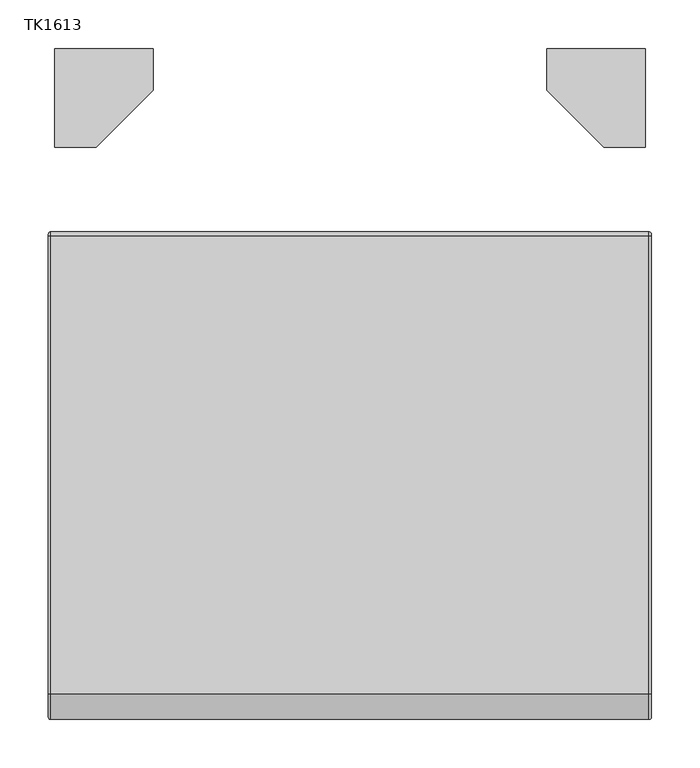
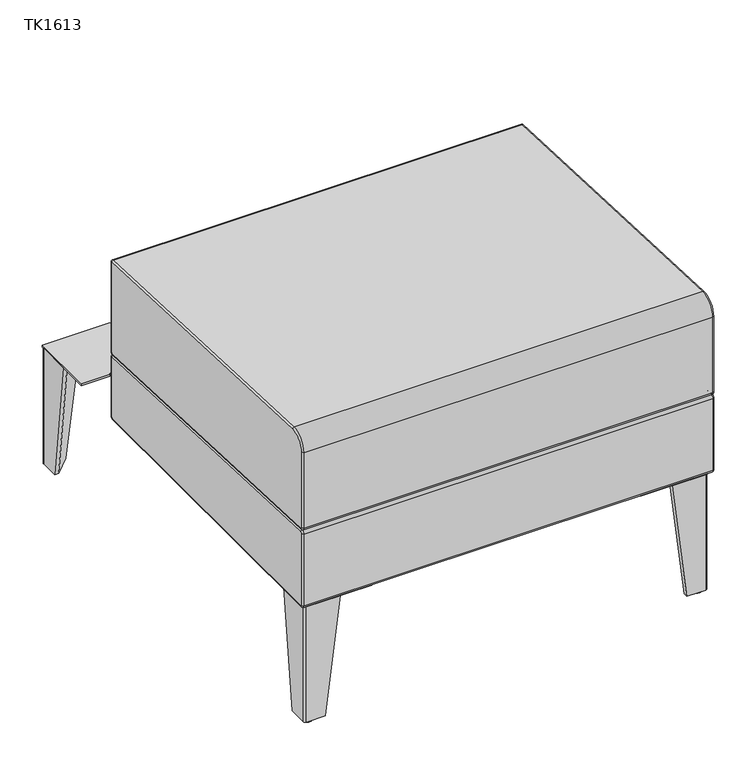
"""IFC4 building model written with IfcOpenShell, lengths in millimetres: furniture geometry, JSI-Teekan-Single_Seat_Lounge : TK1613."""

from ifc_helpers import new_model, si_unit, point, frame, origin, place, context, project, spatial, polyline, circle_curve, ellipse_curve, trimmed, outline, extrude, source, transform, mapped, element, save
from ifc_brep_helpers import plane_surface, cylinder_surface, revolved_surface, spline_surface, advanced_brep


def tk1613_dd0fc4a0(model_context):
    return source(origin(), model_context, "Body", "SolidModel", [
        advanced_brep(
        [(294.8013333, -340.133006, 3.1926572), (294.8013333, -325.6863843, 3.1926572), (294.8013333, -325.6863843, 4.9994321), (294.8013333, -340.133006, 4.9994321), (294.8013333, -336.9403488, 0.0), (294.8013333, -328.8790415, 0.0), (294.8013333, -332.9096951, 0.0), (294.8013333, -332.9096951, 4.9994321)],
        [
            (0, 1, circle_curve(frame((294.8013333, -332.9096951, 3.1926572), z_axis=(0.0, 0.0, 1.0), x_axis=(0.0, 1.0, 0.0)), 7.2233108)),
            (1, 2),
            (2, 3, circle_curve(frame((294.8013333, -332.9096951, 4.9994321), z_axis=(0.0, 0.0, -1.0), x_axis=(0.0, 1.0, 0.0)), 7.2233108)),
            (3, 0),
            (1, 0, circle_curve(frame((294.8013333, -332.9096951, 3.1926572), z_axis=(0.0, 0.0, 1.0), x_axis=(0.0, 1.0, 0.0)), 7.2233108)),
            (3, 2, circle_curve(frame((294.8013333, -332.9096951, 4.9994321), z_axis=(0.0, 0.0, -1.0), x_axis=(0.0, 1.0, 0.0)), 7.2233108)),
            (4, 5, circle_curve(frame((294.8013333, -332.9096951, 0.0), z_axis=(0.0, 0.0, 1.0), x_axis=(0.0, 1.0, 0.0)), 4.0306536)),
            (5, 1, circle_curve(frame((294.8013333, -328.8790415, 3.1926572), z_axis=(1.0, 0.0, 0.0), x_axis=(0.0, 1.0, 0.0)), 3.1926572)),
            (0, 4, circle_curve(frame((294.8013333, -336.9403488, 3.1926572), z_axis=(1.0, 0.0, 0.0), x_axis=(0.0, -1.0, 0.0)), 3.1926572)),
            (5, 4, circle_curve(frame((294.8013333, -332.9096951, 0.0), z_axis=(0.0, 0.0, 1.0), x_axis=(0.0, 1.0, 0.0)), 4.0306536)),
            (6, 5),
            (4, 6),
            (2, 7),
            (7, 3),
        ],
        [
            cylinder_surface(frame((294.8013333, -332.9096951, 14.2077797), z_axis=(0.0, 0.0, -1.0), x_axis=(0.0, 1.0, 0.0)), 7.2233108),
            revolved_surface(trimmed(ellipse_curve(frame((294.8013333, -328.8790415, 3.1926572), z_axis=(-1.0, 0.0, 0.0), x_axis=(0.0, 1.0, 0.0)), 3.1926572, 3.1926572), [point((294.8013333, -325.6863843, 3.1926572))], [point((294.8013333, -328.8790415, 0.0))], True, "CARTESIAN"), (294.8013333, -332.9096951, 14.2077797), (0.0, 0.0, -1.0)),
            plane_surface(frame((294.8013333, -332.9096951, 0.0), z_axis=(0.0, 0.0, -1.0), x_axis=(0.0, 1.0, 0.0))),
            plane_surface(frame((294.8013333, -332.9096951, 4.9994321), z_axis=(0.0, 0.0, 1.0), x_axis=(0.0, 1.0, 0.0))),
        ],
        [
            (0, [[1, 2, 3, 4]]),
            (0, [[5, -4, 6, -2]]),
            (1, [[7, 8, -1, 9]]),
            (1, [[10, -9, -5, -8]]),
            (2, [[11, -7, 12]]),
            (2, [[-12, -10, -11]]),
            (3, [[-3, 13, 14]]),
            (3, [[-6, -14, -13]]),
        ],
    ),
        advanced_brep(
        [(250.825, -336.5496631, 189.4817329), (250.825, -342.9, 189.4817329), (301.625, -342.9, 189.4817329), (304.8, -339.725, 189.4817329), (304.8, -288.9246631, 189.4817329), (298.45, -288.9246631, 189.4817329), (273.05, -336.5496631, 4.9994321), (298.45, -311.1496631, 4.9994321), (304.8, -311.1496631, 4.9994321), (304.8, -339.6969923, 4.9994321), (301.5969923, -342.9, 4.9994321), (273.05, -342.9, 4.9994321)],
        [
            (0, 1),
            (1, 2),
            (2, 3, circle_curve(frame((301.625, -339.725, 189.4817329), z_axis=(0.0, 0.0, 1.0), x_axis=(-1.0, 0.0, 0.0)), 3.175)),
            (3, 4),
            (4, 5),
            (5, 0),
            (6, 7),
            (7, 8),
            (8, 9),
            (9, 10, circle_curve(frame((301.5969923, -339.6969923, 4.9994321), z_axis=(0.0, 0.0, -1.0), x_axis=(-1.0, 0.0, 0.0)), 3.2030077)),
            (10, 11),
            (11, 6),
            (11, 1),
            (0, 6),
            (10, 2),
            (9, 3),
            (8, 4),
            (7, 5),
        ],
        [
            plane_surface(frame((285.2208333, -323.3206649, 189.4817329), z_axis=(0.0, 0.0, 1.0), x_axis=(-1.0, 0.0, 0.0))),
            plane_surface(frame((292.6244987, -330.7243303, 4.9994321), z_axis=(0.0, 0.0, -1.0), x_axis=(-1.0, 0.0, 0.0))),
            plane_surface(frame((273.05, -339.7248316, 4.9994321), z_axis=(-0.9928212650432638, 0.0, -0.11960742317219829), x_axis=(0.0, -1.0, 0.0))),
            plane_surface(frame((287.3234961, -342.9, 4.9994321), z_axis=(0.0, -1.0, 0.0), x_axis=(1.0, 0.0, 0.0))),
            spline_surface(2, 1, [[(301.5969923, -342.9, 4.9994321), (301.625, -342.9, 189.4817329)], [(304.8, -342.9, 4.9994321), (304.79999999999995, -342.9, 189.4817329)], [(304.8, -339.6969923, 4.9994321), (304.8, -339.725, 189.4817329)]], [3, 3], [2, 2], [0.0, 1.0], [0.0, 1.0], weights=[[1.0, 1.0], [0.7071067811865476, 0.7071067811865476], [1.0, 1.0]]),
            plane_surface(frame((304.8, -325.4233277, 4.9994321), z_axis=(1.0, 0.0, 0.0), x_axis=(0.0, 1.0, 0.0))),
            plane_surface(frame((301.625, -311.1496631, 4.9994321), z_axis=(0.0, 0.992821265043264, -0.11960742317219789), x_axis=(-1.0, 0.0, 0.0))),
            plane_surface(frame((285.75, -323.8496631, 4.9994321), z_axis=(-0.7045550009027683, 0.7045550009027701, -0.08487933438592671), x_axis=(-0.7071067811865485, -0.7071067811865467, 0.0))),
        ],
        [
            (0, [[1, 2, 3, 4, 5, 6]]),
            (1, [[7, 8, 9, 10, 11, 12]]),
            (2, [[-12, 13, -1, 14]]),
            (3, [[-11, 15, -2, -13]]),
            (4, [[-10, 16, -3, -15]]),
            (5, [[-9, 17, -4, -16]]),
            (6, [[-8, 18, -5, -17]]),
            (7, [[-7, -14, -6, -18]]),
        ],
    ),
        extrude(outline(polyline([(203.2, -342.9), (203.2, -300.0375), (261.9375, -241.3), (304.8, -241.3), (304.8, -342.9), (203.2, -342.9)])), frame((0.0, 0.0, 189.4817329), z_axis=(0.0, 0.0, 1.0), x_axis=(1.0, 0.0, 0.0)), (0.0, 0.0, 1.0), 3.175),
        advanced_brep(
        [(-294.8013333, -340.133006, 3.1926572), (-294.8013333, -340.133006, 4.9994321), (-294.8013333, -325.6863843, 4.9994321), (-294.8013333, -325.6863843, 3.1926572), (-294.8013333, -336.9403488, 0.0), (-294.8013333, -328.8790415, 0.0), (-294.8013333, -332.9096951, 0.0), (-294.8013333, -332.9096951, 4.9994321)],
        [
            (0, 1),
            (1, 2, circle_curve(frame((-294.8013333, -332.9096951, 4.9994321), z_axis=(0.0, 0.0, -1.0), x_axis=(0.0, 1.0, 0.0)), 7.2233108)),
            (2, 3),
            (3, 0, circle_curve(frame((-294.8013333, -332.9096951, 3.1926572), z_axis=(0.0, 0.0, 1.0), x_axis=(0.0, 1.0, 0.0)), 7.2233108)),
            (2, 1, circle_curve(frame((-294.8013333, -332.9096951, 4.9994321), z_axis=(0.0, 0.0, -1.0), x_axis=(0.0, 1.0, 0.0)), 7.2233108)),
            (0, 3, circle_curve(frame((-294.8013333, -332.9096951, 3.1926572), z_axis=(0.0, 0.0, 1.0), x_axis=(0.0, 1.0, 0.0)), 7.2233108)),
            (4, 0, circle_curve(frame((-294.8013333, -336.9403488, 3.1926572), z_axis=(-1.0, 0.0, 0.0), x_axis=(0.0, -1.0, 0.0)), 3.1926572)),
            (3, 5, circle_curve(frame((-294.8013333, -328.8790415, 3.1926572), z_axis=(-1.0, 0.0, 0.0), x_axis=(0.0, 1.0, 0.0)), 3.1926572)),
            (5, 4, circle_curve(frame((-294.8013333, -332.9096951, 0.0), z_axis=(0.0, 0.0, 1.0), x_axis=(0.0, 1.0, 0.0)), 4.0306536)),
            (4, 5, circle_curve(frame((-294.8013333, -332.9096951, 0.0), z_axis=(0.0, 0.0, 1.0), x_axis=(0.0, 1.0, 0.0)), 4.0306536)),
            (6, 4),
            (5, 6),
            (1, 7),
            (7, 2),
        ],
        [
            cylinder_surface(frame((-294.8013333, -332.9096951, 14.2077797), z_axis=(0.0, 0.0, -1.0), x_axis=(0.0, 1.0, 0.0)), 7.2233108),
            revolved_surface(trimmed(ellipse_curve(frame((-294.8013333, -328.8790415, 3.1926572), z_axis=(-1.0, 0.0, 0.0), x_axis=(0.0, 1.0, 0.0)), 3.1926572, 3.1926572), [point((-294.8013333, -325.6863843, 3.1926572))], [point((-294.8013333, -328.8790415, 0.0))], True, "CARTESIAN"), (-294.8013333, -332.9096951, 14.2077797), (0.0, 0.0, -1.0)),
            plane_surface(frame((-294.8013333, -332.9096951, 0.0), z_axis=(0.0, 0.0, -1.0), x_axis=(0.0, 1.0, 0.0))),
            plane_surface(frame((-294.8013333, -332.9096951, 4.9994321), z_axis=(0.0, 0.0, 1.0), x_axis=(0.0, 1.0, 0.0))),
        ],
        [
            (0, [[1, 2, 3, 4]]),
            (0, [[-3, 5, -1, 6]]),
            (1, [[7, -4, 8, 9]]),
            (1, [[-8, -6, -7, 10]]),
            (2, [[11, -9, 12]]),
            (2, [[-12, -10, -11]]),
            (3, [[13, 14, -2]]),
            (3, [[-14, -13, -5]]),
        ],
    ),
        advanced_brep(
        [(-250.825, -336.5496631, 189.4817329), (-298.45, -288.9246631, 189.4817329), (-304.8, -288.9246631, 189.4817329), (-304.8, -339.725, 189.4817329), (-301.625, -342.9, 189.4817329), (-250.825, -342.9, 189.4817329), (-273.05, -336.5496631, 4.9994321), (-273.05, -342.9, 4.9994321), (-301.5969923, -342.9, 4.9994321), (-304.8, -339.6969923, 4.9994321), (-304.8, -311.1496631, 4.9994321), (-298.45, -311.1496631, 4.9994321)],
        [
            (0, 1),
            (1, 2),
            (2, 3),
            (3, 4, circle_curve(frame((-301.625, -339.725, 189.4817329), z_axis=(0.0, 0.0, 1.0), x_axis=(1.0, 0.0, 0.0)), 3.175)),
            (4, 5),
            (5, 0),
            (6, 7),
            (7, 8),
            (8, 9, circle_curve(frame((-301.5969923, -339.6969923, 4.9994321), z_axis=(0.0, 0.0, -1.0), x_axis=(1.0, 0.0, 0.0)), 3.2030077)),
            (9, 10),
            (10, 11),
            (11, 6),
            (6, 0),
            (5, 7),
            (4, 8),
            (3, 9),
            (2, 10),
            (1, 11),
        ],
        [
            plane_surface(frame((-285.2208333, -323.3206649, 189.4817329), z_axis=(0.0, 0.0, 1.0), x_axis=(1.0, 0.0, 0.0))),
            plane_surface(frame((-292.6244987, -330.7243303, 4.9994321), z_axis=(0.0, 0.0, -1.0), x_axis=(1.0, 0.0, 0.0))),
            plane_surface(frame((-273.05, -339.7248316, 4.9994321), z_axis=(0.9928212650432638, 0.0, -0.11960742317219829), x_axis=(0.0, -1.0, 0.0))),
            plane_surface(frame((-287.3234961, -342.9, 4.9994321), z_axis=(0.0, -1.0, 0.0), x_axis=(-1.0, 0.0, 0.0))),
            spline_surface(1, 2, [[(-301.5969923, -342.9, 4.9994321), (-304.8, -342.9, 4.9994321), (-304.8, -339.6969923, 4.9994321)], [(-301.625, -342.9, 189.4817329), (-304.79999999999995, -342.9, 189.4817329), (-304.8, -339.725, 189.4817329)]], [2, 2], [3, 3], [0.0, 1.0], [0.0, 1.0], weights=[[1.0, 0.7071067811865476, 1.0], [1.0, 0.7071067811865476, 1.0]]),
            plane_surface(frame((-304.8, -325.4233277, 4.9994321), z_axis=(-1.0, 0.0, 0.0), x_axis=(0.0, 1.0, 0.0))),
            plane_surface(frame((-301.625, -311.1496631, 4.9994321), z_axis=(0.0, 0.992821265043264, -0.11960742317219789), x_axis=(1.0, 0.0, 0.0))),
            plane_surface(frame((-285.75, -323.8496631, 4.9994321), z_axis=(0.7045550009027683, 0.7045550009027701, -0.08487933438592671), x_axis=(0.7071067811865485, -0.7071067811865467, 0.0))),
        ],
        [
            (0, [[1, 2, 3, 4, 5, 6]]),
            (1, [[7, 8, 9, 10, 11, 12]]),
            (2, [[13, -6, 14, -7]]),
            (3, [[-14, -5, 15, -8]]),
            (4, [[-15, -4, 16, -9]]),
            (5, [[-16, -3, 17, -10]]),
            (6, [[-17, -2, 18, -11]]),
            (7, [[-18, -1, -13, -12]]),
        ],
    ),
        extrude(outline(polyline([(-203.2, -342.9), (-304.8, -342.9), (-304.8, -241.3), (-261.9375, -241.3), (-203.2, -300.0375), (-203.2, -342.9)])), frame((0.0, 0.0, 189.4817329), z_axis=(0.0, 0.0, 1.0), x_axis=(1.0, 0.0, 0.0)), (0.0, 0.0, 1.0), 3.175),
        advanced_brep(
        [(294.8013333, 340.133006, 3.1926572), (294.8013333, 340.133006, 4.9994321), (294.8013333, 325.6863843, 4.9994321), (294.8013333, 325.6863843, 3.1926572), (294.8013333, 336.9403488, 0.0), (294.8013333, 328.8790415, 0.0), (294.8013333, 332.9096951, 0.0), (294.8013333, 332.9096951, 4.9994321)],
        [
            (0, 1),
            (1, 2, circle_curve(frame((294.8013333, 332.9096951, 4.9994321), z_axis=(0.0, 0.0, -1.0), x_axis=(0.0, -1.0, 0.0)), 7.2233108)),
            (2, 3),
            (3, 0, circle_curve(frame((294.8013333, 332.9096951, 3.1926572), z_axis=(0.0, 0.0, 1.0), x_axis=(0.0, -1.0, 0.0)), 7.2233108)),
            (2, 1, circle_curve(frame((294.8013333, 332.9096951, 4.9994321), z_axis=(0.0, 0.0, -1.0), x_axis=(0.0, -1.0, 0.0)), 7.2233108)),
            (0, 3, circle_curve(frame((294.8013333, 332.9096951, 3.1926572), z_axis=(0.0, 0.0, 1.0), x_axis=(0.0, -1.0, 0.0)), 7.2233108)),
            (4, 0, circle_curve(frame((294.8013333, 336.9403488, 3.1926572), z_axis=(1.0, 0.0, 0.0), x_axis=(0.0, 1.0, 0.0)), 3.1926572)),
            (3, 5, circle_curve(frame((294.8013333, 328.8790415, 3.1926572), z_axis=(1.0, 0.0, 0.0), x_axis=(0.0, -1.0, 0.0)), 3.1926572)),
            (5, 4, circle_curve(frame((294.8013333, 332.9096951, 0.0), z_axis=(0.0, 0.0, 1.0), x_axis=(0.0, -1.0, 0.0)), 4.0306536)),
            (4, 5, circle_curve(frame((294.8013333, 332.9096951, 0.0), z_axis=(0.0, 0.0, 1.0), x_axis=(0.0, -1.0, 0.0)), 4.0306536)),
            (6, 4),
            (5, 6),
            (1, 7),
            (7, 2),
        ],
        [
            cylinder_surface(frame((294.8013333, 332.9096951, 14.2077797), z_axis=(0.0, 0.0, -1.0), x_axis=(0.0, -1.0, 0.0)), 7.2233108),
            revolved_surface(trimmed(ellipse_curve(frame((294.8013333, 328.8790415, 3.1926572), z_axis=(1.0, 0.0, 0.0), x_axis=(0.0, -1.0, 0.0)), 3.1926572, 3.1926572), [point((294.8013333, 325.6863843, 3.1926572))], [point((294.8013333, 328.8790415, 0.0))], True, "CARTESIAN"), (294.8013333, 332.9096951, 14.2077797), (0.0, 0.0, -1.0)),
            plane_surface(frame((294.8013333, 332.9096951, 0.0), z_axis=(0.0, 0.0, -1.0), x_axis=(0.0, -1.0, 0.0))),
            plane_surface(frame((294.8013333, 332.9096951, 4.9994321), z_axis=(0.0, 0.0, 1.0), x_axis=(0.0, -1.0, 0.0))),
        ],
        [
            (0, [[1, 2, 3, 4]]),
            (0, [[-3, 5, -1, 6]]),
            (1, [[7, -4, 8, 9]]),
            (1, [[-8, -6, -7, 10]]),
            (2, [[11, -9, 12]]),
            (2, [[-12, -10, -11]]),
            (3, [[13, 14, -2]]),
            (3, [[-14, -13, -5]]),
        ],
    ),
        advanced_brep(
        [(250.825, 336.5496631, 189.4817329), (298.45, 288.9246631, 189.4817329), (304.8, 288.9246631, 189.4817329), (304.8, 339.725, 189.4817329), (301.625, 342.9, 189.4817329), (250.825, 342.9, 189.4817329), (273.05, 336.5496631, 4.9994321), (273.05, 342.9, 4.9994321), (301.5969923, 342.9, 4.9994321), (304.8, 339.6969923, 4.9994321), (304.8, 311.1496631, 4.9994321), (298.45, 311.1496631, 4.9994321)],
        [
            (0, 1),
            (1, 2),
            (2, 3),
            (3, 4, circle_curve(frame((301.625, 339.725, 189.4817329), z_axis=(0.0, 0.0, 1.0), x_axis=(-1.0, 0.0, 0.0)), 3.175)),
            (4, 5),
            (5, 0),
            (6, 7),
            (7, 8),
            (8, 9, circle_curve(frame((301.5969923, 339.6969923, 4.9994321), z_axis=(0.0, 0.0, -1.0), x_axis=(-1.0, 0.0, 0.0)), 3.2030077)),
            (9, 10),
            (10, 11),
            (11, 6),
            (6, 0),
            (5, 7),
            (4, 8),
            (3, 9),
            (2, 10),
            (1, 11),
        ],
        [
            plane_surface(frame((285.2208333, 323.3206649, 189.4817329), z_axis=(0.0, 0.0, 1.0), x_axis=(-1.0, 0.0, 0.0))),
            plane_surface(frame((292.6244987, 330.7243303, 4.9994321), z_axis=(0.0, 0.0, -1.0), x_axis=(-1.0, 0.0, 0.0))),
            plane_surface(frame((273.05, 339.7248316, 4.9994321), z_axis=(-0.9928212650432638, 0.0, -0.11960742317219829), x_axis=(0.0, 1.0, 0.0))),
            plane_surface(frame((287.3234961, 342.9, 4.9994321), z_axis=(0.0, 1.0, 0.0), x_axis=(1.0, 0.0, 0.0))),
            spline_surface(1, 2, [[(301.5969923, 342.9, 4.9994321), (304.8, 342.9, 4.9994321), (304.8, 339.6969923, 4.9994321)], [(301.625, 342.9, 189.4817329), (304.79999999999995, 342.9, 189.4817329), (304.8, 339.725, 189.4817329)]], [2, 2], [3, 3], [0.0, 1.0], [0.0, 1.0], weights=[[1.0, 0.7071067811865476, 1.0], [1.0, 0.7071067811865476, 1.0]]),
            plane_surface(frame((304.8, 325.4233277, 4.9994321), z_axis=(1.0, 0.0, 0.0), x_axis=(0.0, -1.0, 0.0))),
            plane_surface(frame((301.625, 311.1496631, 4.9994321), z_axis=(0.0, -0.992821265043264, -0.11960742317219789), x_axis=(-1.0, 0.0, 0.0))),
            plane_surface(frame((285.75, 323.8496631, 4.9994321), z_axis=(-0.7045550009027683, -0.7045550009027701, -0.08487933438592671), x_axis=(-0.7071067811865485, 0.7071067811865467, 0.0))),
        ],
        [
            (0, [[1, 2, 3, 4, 5, 6]]),
            (1, [[7, 8, 9, 10, 11, 12]]),
            (2, [[13, -6, 14, -7]]),
            (3, [[-14, -5, 15, -8]]),
            (4, [[-15, -4, 16, -9]]),
            (5, [[-16, -3, 17, -10]]),
            (6, [[-17, -2, 18, -11]]),
            (7, [[-18, -1, -13, -12]]),
        ],
    ),
        extrude(outline(polyline([(203.2, 342.9), (304.8, 342.9), (304.8, 241.3), (261.9375, 241.3), (203.2, 300.0375), (203.2, 342.9)])), frame((0.0, 0.0, 189.4817329), z_axis=(0.0, 0.0, 1.0), x_axis=(1.0, 0.0, 0.0)), (0.0, 0.0, 1.0), 3.175),
        advanced_brep(
        [(-294.8013333, 340.133006, 3.1926572), (-294.8013333, 325.6863843, 3.1926572), (-294.8013333, 325.6863843, 4.9994321), (-294.8013333, 340.133006, 4.9994321), (-294.8013333, 336.9403488, 0.0), (-294.8013333, 328.8790415, 0.0), (-294.8013333, 332.9096951, 0.0), (-294.8013333, 332.9096951, 4.9994321)],
        [
            (0, 1, circle_curve(frame((-294.8013333, 332.9096951, 3.1926572), z_axis=(0.0, 0.0, 1.0), x_axis=(0.0, -1.0, 0.0)), 7.2233108)),
            (1, 2),
            (2, 3, circle_curve(frame((-294.8013333, 332.9096951, 4.9994321), z_axis=(0.0, 0.0, -1.0), x_axis=(0.0, -1.0, 0.0)), 7.2233108)),
            (3, 0),
            (1, 0, circle_curve(frame((-294.8013333, 332.9096951, 3.1926572), z_axis=(0.0, 0.0, 1.0), x_axis=(0.0, -1.0, 0.0)), 7.2233108)),
            (3, 2, circle_curve(frame((-294.8013333, 332.9096951, 4.9994321), z_axis=(0.0, 0.0, -1.0), x_axis=(0.0, -1.0, 0.0)), 7.2233108)),
            (4, 5, circle_curve(frame((-294.8013333, 332.9096951, 0.0), z_axis=(0.0, 0.0, 1.0), x_axis=(0.0, -1.0, 0.0)), 4.0306536)),
            (5, 1, circle_curve(frame((-294.8013333, 328.8790415, 3.1926572), z_axis=(-1.0, 0.0, 0.0), x_axis=(0.0, -1.0, 0.0)), 3.1926572)),
            (0, 4, circle_curve(frame((-294.8013333, 336.9403488, 3.1926572), z_axis=(-1.0, 0.0, 0.0), x_axis=(0.0, 1.0, 0.0)), 3.1926572)),
            (5, 4, circle_curve(frame((-294.8013333, 332.9096951, 0.0), z_axis=(0.0, 0.0, 1.0), x_axis=(0.0, -1.0, 0.0)), 4.0306536)),
            (6, 5),
            (4, 6),
            (2, 7),
            (7, 3),
        ],
        [
            cylinder_surface(frame((-294.8013333, 332.9096951, 14.2077797), z_axis=(0.0, 0.0, -1.0), x_axis=(0.0, -1.0, 0.0)), 7.2233108),
            revolved_surface(trimmed(ellipse_curve(frame((-294.8013333, 328.8790415, 3.1926572), z_axis=(1.0, 0.0, 0.0), x_axis=(0.0, -1.0, 0.0)), 3.1926572, 3.1926572), [point((-294.8013333, 325.6863843, 3.1926572))], [point((-294.8013333, 328.8790415, 0.0))], True, "CARTESIAN"), (-294.8013333, 332.9096951, 14.2077797), (0.0, 0.0, -1.0)),
            plane_surface(frame((-294.8013333, 332.9096951, 0.0), z_axis=(0.0, 0.0, -1.0), x_axis=(0.0, -1.0, 0.0))),
            plane_surface(frame((-294.8013333, 332.9096951, 4.9994321), z_axis=(0.0, 0.0, 1.0), x_axis=(0.0, -1.0, 0.0))),
        ],
        [
            (0, [[1, 2, 3, 4]]),
            (0, [[5, -4, 6, -2]]),
            (1, [[7, 8, -1, 9]]),
            (1, [[10, -9, -5, -8]]),
            (2, [[11, -7, 12]]),
            (2, [[-12, -10, -11]]),
            (3, [[-3, 13, 14]]),
            (3, [[-6, -14, -13]]),
        ],
    ),
        advanced_brep(
        [(-250.825, 336.5496631, 189.4817329), (-250.825, 342.9, 189.4817329), (-301.625, 342.9, 189.4817329), (-304.8, 339.725, 189.4817329), (-304.8, 288.9246631, 189.4817329), (-298.45, 288.9246631, 189.4817329), (-273.05, 336.5496631, 4.9994321), (-298.45, 311.1496631, 4.9994321), (-304.8, 311.1496631, 4.9994321), (-304.8, 339.6969923, 4.9994321), (-301.5969923, 342.9, 4.9994321), (-273.05, 342.9, 4.9994321)],
        [
            (0, 1),
            (1, 2),
            (2, 3, circle_curve(frame((-301.625, 339.725, 189.4817329), z_axis=(0.0, 0.0, 1.0), x_axis=(1.0, 0.0, 0.0)), 3.175)),
            (3, 4),
            (4, 5),
            (5, 0),
            (6, 7),
            (7, 8),
            (8, 9),
            (9, 10, circle_curve(frame((-301.5969923, 339.6969923, 4.9994321), z_axis=(0.0, 0.0, -1.0), x_axis=(1.0, 0.0, 0.0)), 3.2030077)),
            (10, 11),
            (11, 6),
            (11, 1),
            (0, 6),
            (10, 2),
            (9, 3),
            (8, 4),
            (7, 5),
        ],
        [
            plane_surface(frame((-285.2208333, 323.3206649, 189.4817329), z_axis=(0.0, 0.0, 1.0), x_axis=(1.0, 0.0, 0.0))),
            plane_surface(frame((-292.6244987, 330.7243303, 4.9994321), z_axis=(0.0, 0.0, -1.0), x_axis=(1.0, 0.0, 0.0))),
            plane_surface(frame((-273.05, 339.7248316, 4.9994321), z_axis=(0.9928212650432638, 0.0, -0.11960742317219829), x_axis=(0.0, 1.0, 0.0))),
            plane_surface(frame((-287.3234961, 342.9, 4.9994321), z_axis=(0.0, 1.0, 0.0), x_axis=(-1.0, 0.0, 0.0))),
            spline_surface(2, 1, [[(-301.5969923, 342.9, 4.9994321), (-301.625, 342.9, 189.4817329)], [(-304.8, 342.9, 4.9994321), (-304.79999999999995, 342.9, 189.4817329)], [(-304.8, 339.6969923, 4.9994321), (-304.8, 339.725, 189.4817329)]], [3, 3], [2, 2], [0.0, 1.0], [0.0, 1.0], weights=[[1.0, 1.0], [0.7071067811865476, 0.7071067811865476], [1.0, 1.0]]),
            plane_surface(frame((-304.8, 325.4233277, 4.9994321), z_axis=(-1.0, 0.0, 0.0), x_axis=(0.0, -1.0, 0.0))),
            plane_surface(frame((-301.625, 311.1496631, 4.9994321), z_axis=(0.0, -0.992821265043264, -0.11960742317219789), x_axis=(1.0, 0.0, 0.0))),
            plane_surface(frame((-285.75, 323.8496631, 4.9994321), z_axis=(0.7045550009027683, -0.7045550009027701, -0.08487933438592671), x_axis=(0.7071067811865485, 0.7071067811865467, 0.0))),
        ],
        [
            (0, [[1, 2, 3, 4, 5, 6]]),
            (1, [[7, 8, 9, 10, 11, 12]]),
            (2, [[-12, 13, -1, 14]]),
            (3, [[-11, 15, -2, -13]]),
            (4, [[-10, 16, -3, -15]]),
            (5, [[-9, 17, -4, -16]]),
            (6, [[-8, 18, -5, -17]]),
            (7, [[-7, -14, -6, -18]]),
        ],
    ),
        extrude(outline(polyline([(-203.2, 342.9), (-203.2, 300.0375), (-261.9375, 241.3), (-304.8, 241.3), (-304.8, 342.9), (-203.2, 342.9)])), frame((0.0, 0.0, 189.4817329), z_axis=(0.0, 0.0, 1.0), x_axis=(1.0, 0.0, 0.0)), (0.0, 0.0, 1.0), 3.175),
        advanced_brep(
        [(308.76875, 148.7693192, 295.6513391), (308.76875, 153.733973, 300.4095468), (311.15, 151.352723, 300.4095468), (311.15, 148.8703961, 298.0304429), (-308.76875, 148.7693192, 295.6513391), (-308.76875, 153.733973, 300.4095468), (-311.15, 148.8703961, 298.0304429), (-311.15, 151.352723, 300.4095468), (311.15, -344.5512855, 318.9936072), (308.76875, -344.6523625, 316.6145034), (-308.76875, -344.6523625, 316.6145034), (-311.15, -344.5512855, 318.9936072), (308.76875, -322.7527962, 467.50355), (311.15, -322.8538731, 465.1244462), (311.15, 149.0725499, 445.0745142), (308.76875, 149.1736269, 447.4536181), (-308.76875, 149.1736269, 447.4536181), (-308.76875, -322.7527962, 467.50355), (-311.15, 149.0725499, 445.0745142), (-311.15, -322.8538731, 465.1244462), (311.15, 151.352723, 442.6954104), (308.76875, 153.733973, 442.6954104), (-308.76875, 153.733973, 442.6954104), (-311.15, 151.352723, 442.6954104), (311.15, -346.8497, 321.3917439), (308.76875, -349.23095, 321.3917439), (-308.76875, -349.23095, 321.3917439), (-311.15, -346.8497, 321.3917439), (311.15, -346.8497, 442.1264425), (308.76875, -349.23095, 442.1264425), (-308.76875, -349.23095, 442.1264425), (-311.15, -346.8497, 442.1264425)],
        [
            (0, 1, circle_curve(frame((308.76875, 148.971473, 300.4095468), z_axis=(1.0, 0.0, 0.0), x_axis=(0.0, 1.0, 0.0)), 4.7625)),
            (1, 2, circle_curve(frame((308.76875, 151.352723, 300.4095468), z_axis=(0.0, 0.0, -1.0), x_axis=(1.0, 0.0, 0.0)), 2.38125)),
            (2, 3, circle_curve(frame((311.15, 148.971473, 300.4095468), z_axis=(-1.0, 0.0, 0.0), x_axis=(0.0, 1.0, 0.0)), 2.38125)),
            (3, 0, circle_curve(frame((308.76875, 148.8703961, 298.0304429), z_axis=(0.0, 0.9990987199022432, -0.042447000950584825), x_axis=(1.0, 0.0, 0.0)), 2.38125)),
            (0, 4),
            (4, 5, circle_curve(frame((-308.76875, 148.971473, 300.4095468), z_axis=(1.0, 0.0, 0.0), x_axis=(0.0, 1.0, 0.0)), 4.7625)),
            (5, 1),
            (4, 6, circle_curve(frame((-308.76875, 148.8703961, 298.0304429), z_axis=(0.0, 0.999098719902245, -0.042447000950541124), x_axis=(1.0, 0.0, 0.0)), 2.38125)),
            (6, 7, circle_curve(frame((-311.15, 148.971473, 300.4095468), z_axis=(1.0, 0.0, 0.0), x_axis=(0.0, 1.0, 0.0)), 2.38125)),
            (7, 5, circle_curve(frame((-308.76875, 151.352723, 300.4095468), z_axis=(0.0, 0.0, -1.0), x_axis=(1.0, 0.0, 0.0)), 2.38125)),
            (3, 8),
            (8, 9, circle_curve(frame((308.76875, -344.5512855, 318.9936072), z_axis=(0.0, 0.9990987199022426, -0.04244700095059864), x_axis=(1.0, 0.0, 0.0)), 2.38125)),
            (9, 0),
            (9, 10),
            (10, 4),
            (10, 11, circle_curve(frame((-308.76875, -344.5512855, 318.9936072), z_axis=(0.0, 0.9990987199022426, -0.04244700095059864), x_axis=(1.0, 0.0, 0.0)), 2.38125)),
            (11, 6),
            (12, 13, circle_curve(frame((308.76875, -322.8538731, 465.1244462), z_axis=(0.0, 0.9990987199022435, -0.0424470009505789), x_axis=(1.0, 0.0, 0.0)), 2.38125)),
            (13, 14),
            (14, 15, circle_curve(frame((308.76875, 149.0725499, 445.0745142), z_axis=(0.0, -0.9990987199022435, 0.0424470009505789), x_axis=(1.0, 0.0, 0.0)), 2.38125)),
            (15, 12),
            (15, 16),
            (16, 17),
            (17, 12),
            (16, 18, circle_curve(frame((-308.76875, 149.0725499, 445.0745142), z_axis=(0.0, -0.9990987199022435, 0.0424470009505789), x_axis=(1.0, 0.0, 0.0)), 2.38125)),
            (18, 19),
            (19, 17, circle_curve(frame((-308.76875, -322.8538731, 465.1244462), z_axis=(0.0, 0.9990987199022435, -0.0424470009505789), x_axis=(1.0, 0.0, 0.0)), 2.38125)),
            (14, 20, circle_curve(frame((311.15, 148.971473, 442.6954104), z_axis=(-1.0, 0.0, 0.0), x_axis=(0.0, 0.04244700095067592, 0.9990987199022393)), 2.38125)),
            (20, 21, circle_curve(frame((308.76875, 151.352723, 442.6954104), z_axis=(0.0, 0.0, 0.9999999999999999), x_axis=(1.0, 0.0, 0.0)), 2.38125)),
            (21, 15, circle_curve(frame((308.76875, 148.971473, 442.6954104), z_axis=(1.0, 0.0, 0.0), x_axis=(0.0, 0.04244700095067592, 0.9990987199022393)), 4.7625)),
            (21, 22),
            (22, 16, circle_curve(frame((-308.76875, 148.971473, 442.6954104), z_axis=(1.0, 0.0, 0.0), x_axis=(0.0, 0.04244700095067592, 0.9990987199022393)), 4.7625)),
            (22, 23, circle_curve(frame((-308.76875, 151.352723, 442.6954104), z_axis=(0.0, 0.0, 1.0), x_axis=(1.0, 0.0, 0.0)), 2.38125)),
            (23, 18, circle_curve(frame((-311.15, 148.971473, 442.6954104), z_axis=(1.0, 0.0, 0.0), x_axis=(0.0, 0.04244700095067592, 0.9990987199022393)), 2.38125)),
            (1, 21),
            (20, 2),
            (5, 22),
            (7, 23),
            (8, 24, circle_curve(frame((311.15, -344.4494, 321.3917439), z_axis=(-1.0, 0.0, 0.0), x_axis=(0.0, -0.04244700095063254, -0.9990987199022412)), 2.4003)),
            (24, 25, circle_curve(frame((308.76875, -346.8497, 321.3917439), z_axis=(0.0, 0.0, -1.0), x_axis=(1.0, 0.0, 0.0)), 2.38125)),
            (25, 9, circle_curve(frame((308.76875, -344.4494, 321.3917439), z_axis=(1.0, 0.0, 0.0), x_axis=(0.0, -0.04244700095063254, -0.9990987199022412)), 4.78155)),
            (25, 26),
            (26, 10, circle_curve(frame((-308.76875, -344.4494, 321.3917439), z_axis=(1.0, 0.0, 0.0), x_axis=(0.0, -0.04244700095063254, -0.9990987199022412)), 4.78155)),
            (26, 27, circle_curve(frame((-308.76875, -346.8497, 321.3917439), z_axis=(0.0, 0.0, -1.0), x_axis=(1.0, 0.0, 0.0)), 2.38125)),
            (27, 11, circle_curve(frame((-311.15, -344.4494, 321.3917439), z_axis=(1.0, 0.0, 0.0), x_axis=(0.0, -0.04244700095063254, -0.9990987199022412)), 2.4003)),
            (24, 28),
            (28, 29, circle_curve(frame((308.76875, -346.8497, 442.1264425), z_axis=(0.0, 0.0, -1.0), x_axis=(1.0, 0.0, 0.0)), 2.38125)),
            (29, 25),
            (29, 30),
            (30, 26),
            (30, 31, circle_curve(frame((-308.76875, -346.8497, 442.1264425), z_axis=(0.0, 0.0, -1.0), x_axis=(1.0, 0.0, 0.0)), 2.38125)),
            (31, 27),
            (13, 28, circle_curve(frame((311.15, -323.83095, 442.1264425), z_axis=(1.0, 0.0, 0.0), x_axis=(0.0, -1.0, 0.0)), 23.01875)),
            (12, 29, circle_curve(frame((308.76875, -323.83095, 442.1264425), z_axis=(1.0, 0.0, 0.0), x_axis=(0.0, -1.0, 0.0)), 25.4)),
            (17, 30, circle_curve(frame((-308.76875, -323.83095, 442.1264425), z_axis=(1.0, 0.0, 0.0), x_axis=(0.0, -1.0, 0.0)), 25.4)),
            (19, 31, circle_curve(frame((-311.15, -323.83095, 442.1264425), z_axis=(1.0, 0.0, 0.0), x_axis=(0.0, -1.0, 0.0)), 23.01875)),
        ],
        [
            revolved_surface(trimmed(ellipse_curve(frame((308.76875, 151.352723, 300.4095468), z_axis=(0.0, 0.0, 1.0), x_axis=(1.0, 0.0, 0.0)), 2.38125, 2.38125), [point((311.15, 151.352723, 300.4095468))], [point((308.76875, 153.733973, 300.4095468))], True, "CARTESIAN"), (0.0, 148.971473, 300.4095468), (-1.0, 0.0, 0.0)),
            cylinder_surface(frame((0.0, 148.971473, 300.4095468), z_axis=(-1.0, 0.0, 0.0), x_axis=(0.0, 1.0, 0.0)), 4.7625),
            revolved_surface(trimmed(ellipse_curve(frame((-308.76875, 151.352723, 300.4095468), z_axis=(0.0, 0.0, 1.0), x_axis=(1.0, 0.0, 0.0)), 2.38125, 2.38125), [point((-308.76875, 153.733973, 300.4095468))], [point((-311.15, 151.352723, 300.4095468))], True, "CARTESIAN"), (0.0, 148.971473, 300.4095468), (-1.0, 0.0, 0.0)),
            cylinder_surface(frame((308.76875, 148.8703961, 298.0304429), z_axis=(0.0, 0.9990987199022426, -0.04244700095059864), x_axis=(1.0, 0.0, 0.0)), 2.38125),
            plane_surface(frame((308.76875, 148.7693192, 295.6513391), z_axis=(0.0, -0.04244700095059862, -0.9990987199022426), x_axis=(0.0, -0.9990987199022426, 0.04244700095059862))),
            cylinder_surface(frame((-308.76875, 148.8703961, 298.0304429), z_axis=(0.0, 0.9990987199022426, -0.04244700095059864), x_axis=(1.0, 0.0, 0.0)), 2.38125),
            cylinder_surface(frame((308.76875, -322.8538731, 465.1244462), z_axis=(0.0, -0.9990987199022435, 0.0424470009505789), x_axis=(1.0, 0.0, 0.0)), 2.38125),
            plane_surface(frame((308.76875, -322.7527962, 467.50355), z_axis=(0.0, 0.04244700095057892, 0.9990987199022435), x_axis=(0.0, 0.9990987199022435, -0.04244700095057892))),
            cylinder_surface(frame((-308.76875, -322.8538731, 465.1244462), z_axis=(0.0, -0.9990987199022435, 0.0424470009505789), x_axis=(1.0, 0.0, 0.0)), 2.38125),
            revolved_surface(trimmed(ellipse_curve(frame((308.76875, 149.0725499, 445.0745142), z_axis=(0.0, -0.9990987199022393, 0.04244700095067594), x_axis=(1.0, 0.0, 0.0)), 2.38125, 2.38125), [point((311.15, 149.0725499, 445.0745142))], [point((308.76875, 149.1736269, 447.4536181))], True, "CARTESIAN"), (0.0, 148.971473, 442.6954104), (-1.0, 0.0, 0.0)),
            cylinder_surface(frame((0.0, 148.971473, 442.6954104), z_axis=(-1.0, 0.0, 0.0), x_axis=(0.0, 0.04244700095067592, 0.9990987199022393)), 4.7625),
            revolved_surface(trimmed(ellipse_curve(frame((-308.76875, 149.0725499, 445.0745142), z_axis=(0.0, -0.9990987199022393, 0.04244700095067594), x_axis=(1.0, 0.0, 0.0)), 2.38125, 2.38125), [point((-308.76875, 149.1736269, 447.4536181))], [point((-311.15, 149.0725499, 445.0745142))], True, "CARTESIAN"), (0.0, 148.971473, 442.6954104), (-1.0, 0.0, 0.0)),
            cylinder_surface(frame((308.76875, 151.352723, 442.6954104), z_axis=(0.0, 0.0, 1.0), x_axis=(1.0, 0.0, 0.0)), 2.38125),
            plane_surface(frame((308.76875, 153.733973, 442.6954104), z_axis=(0.0, 1.0, 0.0), x_axis=(0.0, 0.0, -1.0))),
            cylinder_surface(frame((-308.76875, 151.352723, 442.6954104), z_axis=(0.0, 0.0, 1.0), x_axis=(1.0, 0.0, 0.0)), 2.38125),
            revolved_surface(trimmed(ellipse_curve(frame((308.76875, -344.5512855, 318.9936072), z_axis=(0.0, 0.9990987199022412, -0.042447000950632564), x_axis=(1.0, 0.0, 0.0)), 2.38125, 2.38125), [point((311.15, -344.5512855, 318.9936072))], [point((308.76875, -344.6523625, 316.6145034))], True, "CARTESIAN"), (0.0, -344.4494, 321.3917439), (-1.0, 0.0, 0.0)),
            cylinder_surface(frame((0.0, -344.4494, 321.3917439), z_axis=(-1.0, 0.0, 0.0), x_axis=(0.0, -0.04244700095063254, -0.9990987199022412)), 4.78155),
            revolved_surface(trimmed(ellipse_curve(frame((-308.76875, -344.5512855, 318.9936072), z_axis=(0.0, 0.9990987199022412, -0.042447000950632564), x_axis=(1.0, 0.0, 0.0)), 2.38125, 2.38125), [point((-308.76875, -344.6523625, 316.6145034))], [point((-311.15, -344.5512855, 318.9936072))], True, "CARTESIAN"), (0.0, -344.4494, 321.3917439), (-1.0, 0.0, 0.0)),
            cylinder_surface(frame((308.76875, -346.8497, 321.3917439), z_axis=(0.0, 0.0, -1.0), x_axis=(1.0, 0.0, 0.0)), 2.38125),
            plane_surface(frame((308.76875, -349.23095, 321.3917439), z_axis=(0.0, -1.0, 0.0), x_axis=(0.0, 0.0, 1.0))),
            cylinder_surface(frame((-308.76875, -346.8497, 321.3917439), z_axis=(0.0, 0.0, -1.0), x_axis=(1.0, 0.0, 0.0)), 2.38125),
            plane_surface(frame((311.15, -323.83095, 442.1264425), z_axis=(1.0, 0.0, 0.0), x_axis=(0.0, -1.0, 0.0))),
            revolved_surface(trimmed(ellipse_curve(frame((308.76875, -346.8497, 442.1264425), z_axis=(0.0, 0.0, -1.0), x_axis=(1.0, 0.0, 0.0)), 2.38125, 2.38125), [point((311.15, -346.8497, 442.1264425))], [point((308.76875, -349.23095, 442.1264425))], True, "CARTESIAN"), (0.0, -323.83095, 442.1264425), (-1.0, 0.0, 0.0)),
            cylinder_surface(frame((0.0, -323.83095, 442.1264425), z_axis=(-1.0, 0.0, 0.0), x_axis=(0.0, -1.0, 0.0)), 25.4),
            revolved_surface(trimmed(ellipse_curve(frame((-308.76875, -346.8497, 442.1264425), z_axis=(0.0, 0.0, -1.0), x_axis=(1.0, 0.0, 0.0)), 2.38125, 2.38125), [point((-308.76875, -349.23095, 442.1264425))], [point((-311.15, -346.8497, 442.1264425))], True, "CARTESIAN"), (0.0, -323.83095, 442.1264425), (-1.0, 0.0, 0.0)),
            plane_surface(frame((-311.15, -323.83095, 442.1264425), z_axis=(-1.0, 0.0, 0.0), x_axis=(0.0, -1.0, 0.0))),
        ],
        [
            (0, [[1, 2, 3, 4]]),
            (1, [[-1, 5, 6, 7]]),
            (2, [[-6, 8, 9, 10]]),
            (3, [[-4, 11, 12, 13]]),
            (4, [[-5, -13, 14, 15]]),
            (5, [[-8, -15, 16, 17]]),
            (6, [[18, 19, 20, 21]]),
            (7, [[-21, 22, 23, 24]]),
            (8, [[-23, 25, 26, 27]]),
            (9, [[-20, 28, 29, 30]]),
            (10, [[-22, -30, 31, 32]]),
            (11, [[-25, -32, 33, 34]]),
            (12, [[-2, 35, -29, 36]]),
            (13, [[-7, 37, -31, -35]]),
            (14, [[-10, 38, -33, -37]]),
            (15, [[-12, 39, 40, 41]]),
            (16, [[-14, -41, 42, 43]]),
            (17, [[-16, -43, 44, 45]]),
            (18, [[-40, 46, 47, 48]]),
            (19, [[-42, -48, 49, 50]]),
            (20, [[-44, -50, 51, 52]]),
            (21, [[-3, -36, -28, -19, 53, -46, -39, -11]]),
            (22, [[-18, 54, -47, -53]]),
            (23, [[-24, 55, -49, -54]]),
            (24, [[-27, 56, -51, -55]]),
            (25, [[-9, -17, -45, -52, -56, -26, -34, -38]]),
        ],
    ),
        advanced_brep(
        [(-308.76875, -349.25, 197.5346851), (308.76875, -349.25, 197.5346851), (308.76875, -349.25, 311.8407029), (-308.76875, -349.25, 311.8407029), (-311.15, -346.86875, 311.8407029), (-311.15, -346.86875, 197.5346851), (311.15, -346.86875, 197.5346851), (311.15, -346.86875, 311.8407029), (-308.76875, -344.2853462, 316.5989106), (308.76875, -344.2853462, 316.5989106), (308.76875, 149.169864, 295.6343219), (-308.76875, 149.169864, 295.6343219), (-311.15, 149.0687871, 293.255218), (-311.15, -344.3864231, 314.2198068), (311.15, -344.3864231, 314.2198068), (311.15, 149.0687871, 293.255218), (308.76875, 153.7302102, 290.8761142), (-308.76875, 153.7302102, 290.8761142), (-311.15, 151.3489602, 290.8761142), (311.15, 151.3489602, 290.8761142), (308.76875, 153.7302102, 197.5346851), (-308.76875, 153.7302102, 197.5346851), (-311.15, 151.3489602, 197.5346851), (311.15, 151.3489602, 197.5346851), (308.76875, 148.9677102, 192.7721851), (-308.76875, 148.9677102, 192.7721851), (-311.15, 148.9677102, 195.1534351), (311.15, 148.9677102, 195.1534351), (308.76875, -344.4875, 192.7721851), (-308.76875, -344.4875, 192.7721851), (-311.15, -344.4875, 195.1534351), (311.15, -344.4875, 195.1534351)],
        [
            (0, 1),
            (1, 2),
            (2, 3),
            (3, 0),
            (3, 4, circle_curve(frame((-308.76875, -346.86875, 311.8407029), z_axis=(0.0, 0.0, -1.0), x_axis=(0.0, -1.0, 0.0)), 2.38125)),
            (4, 5),
            (5, 0, circle_curve(frame((-308.76875, -346.86875, 197.5346851), z_axis=(0.0, 0.0, 1.0), x_axis=(0.0, -1.0, 0.0)), 2.38125)),
            (1, 6, circle_curve(frame((308.76875, -346.86875, 197.5346851), z_axis=(0.0, 0.0, 1.0), x_axis=(0.0, -1.0, 0.0)), 2.38125)),
            (6, 7),
            (7, 2, circle_curve(frame((308.76875, -346.86875, 311.8407029), z_axis=(0.0, 0.0, -1.0), x_axis=(0.0, -1.0, 0.0)), 2.38125)),
            (8, 9),
            (9, 10),
            (10, 11),
            (11, 8),
            (11, 12, circle_curve(frame((-308.76875, 149.0687871, 293.255218), z_axis=(0.0, -0.9990987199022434, 0.04244700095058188), x_axis=(0.0, 0.04244700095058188, 0.9990987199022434)), 2.38125)),
            (12, 13),
            (13, 8, circle_curve(frame((-308.76875, -344.3864231, 314.2198068), z_axis=(0.0, 0.9990987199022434, -0.04244700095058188), x_axis=(0.0, 0.04244700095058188, 0.9990987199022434)), 2.38125)),
            (9, 14, circle_curve(frame((308.76875, -344.3864231, 314.2198068), z_axis=(0.0, 0.9990987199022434, -0.04244700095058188), x_axis=(0.0, 0.04244700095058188, 0.9990987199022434)), 2.38125)),
            (14, 15),
            (15, 10, circle_curve(frame((308.76875, 149.0687871, 293.255218), z_axis=(0.0, -0.9990987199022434, 0.04244700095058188), x_axis=(0.0, 0.04244700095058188, 0.9990987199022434)), 2.38125)),
            (10, 16, circle_curve(frame((308.76875, 148.9677102, 290.8761142), z_axis=(-1.0, 0.0, 0.0), x_axis=(0.0, 0.0424470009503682, 0.9990987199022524)), 4.7625)),
            (16, 17),
            (17, 11, circle_curve(frame((-308.76875, 148.9677102, 290.8761142), z_axis=(1.0, 0.0, 0.0), x_axis=(0.0, 0.0424470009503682, 0.9990987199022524)), 4.7625)),
            (17, 18, circle_curve(frame((-308.76875, 151.3489602, 290.8761142), z_axis=(0.0, 0.0, 1.0), x_axis=(0.0, 1.0, 0.0)), 2.38125)),
            (18, 12, circle_curve(frame((-311.15, 148.9677102, 290.8761142), z_axis=(1.0, 0.0, 0.0), x_axis=(0.0, 0.0424470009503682, 0.9990987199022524)), 2.38125)),
            (15, 19, circle_curve(frame((311.15, 148.9677102, 290.8761142), z_axis=(-1.0, 0.0, 0.0), x_axis=(0.0, 0.0424470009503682, 0.9990987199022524)), 2.38125)),
            (19, 16, circle_curve(frame((308.76875, 151.3489602, 290.8761142), z_axis=(0.0, 0.0, 1.0), x_axis=(0.0, 1.0, 0.0)), 2.38125)),
            (16, 20),
            (20, 21),
            (21, 17),
            (21, 22, circle_curve(frame((-308.76875, 151.3489602, 197.5346851), z_axis=(0.0, 0.0, 1.0), x_axis=(0.0, 1.0, 0.0)), 2.38125)),
            (22, 18),
            (19, 23),
            (23, 20, circle_curve(frame((308.76875, 151.3489602, 197.5346851), z_axis=(0.0, 0.0, 1.0), x_axis=(0.0, 1.0, 0.0)), 2.38125)),
            (20, 24, circle_curve(frame((308.76875, 148.9677102, 197.5346851), z_axis=(-1.0, 0.0, 0.0), x_axis=(0.0, 1.0, 0.0)), 4.7625)),
            (24, 25),
            (25, 21, circle_curve(frame((-308.76875, 148.9677102, 197.5346851), z_axis=(1.0, 0.0, 0.0), x_axis=(0.0, 1.0, 0.0)), 4.7625)),
            (25, 26, circle_curve(frame((-308.76875, 148.9677102, 195.1534351), z_axis=(0.0, 1.0, 0.0), x_axis=(0.0, 0.0, -1.0)), 2.38125)),
            (26, 22, circle_curve(frame((-311.15, 148.9677102, 197.5346851), z_axis=(1.0, 0.0, 0.0), x_axis=(0.0, 1.0, 0.0)), 2.38125)),
            (23, 27, circle_curve(frame((311.15, 148.9677102, 197.5346851), z_axis=(-1.0, 0.0, 0.0), x_axis=(0.0, 1.0, 0.0)), 2.38125)),
            (27, 24, circle_curve(frame((308.76875, 148.9677102, 195.1534351), z_axis=(0.0, 1.0, 0.0), x_axis=(0.0, 0.0, -1.0)), 2.38125)),
            (24, 28),
            (28, 29),
            (29, 25),
            (29, 30, circle_curve(frame((-308.76875, -344.4875, 195.1534351), z_axis=(0.0, 1.0, 0.0), x_axis=(0.0, 0.0, -1.0)), 2.38125)),
            (30, 26),
            (27, 31),
            (31, 28, circle_curve(frame((308.76875, -344.4875, 195.1534351), z_axis=(0.0, 1.0, 0.0), x_axis=(0.0, 0.0, -1.0)), 2.38125)),
            (0, 29, circle_curve(frame((-308.76875, -344.4875, 197.5346851), z_axis=(1.0, 0.0, 0.0), x_axis=(0.0, 0.0, -1.0)), 4.7625)),
            (28, 1, circle_curve(frame((308.76875, -344.4875, 197.5346851), z_axis=(-1.0, 0.0, 0.0), x_axis=(0.0, 0.0, -1.0)), 4.7625)),
            (5, 30, circle_curve(frame((-311.15, -344.4875, 197.5346851), z_axis=(1.0, 0.0, 0.0), x_axis=(0.0, 0.0, -1.0)), 2.38125)),
            (31, 6, circle_curve(frame((311.15, -344.4875, 197.5346851), z_axis=(-1.0, 0.0, 0.0), x_axis=(0.0, 0.0, -1.0)), 2.38125)),
            (2, 9, circle_curve(frame((308.76875, -344.4875, 311.8407029), z_axis=(-1.0, 0.0, 0.0), x_axis=(0.0, -1.0, 0.0)), 4.7625)),
            (8, 3, circle_curve(frame((-308.76875, -344.4875, 311.8407029), z_axis=(1.0, 0.0, 0.0), x_axis=(0.0, -1.0, 0.0)), 4.7625)),
            (13, 4, circle_curve(frame((-311.15, -344.4875, 311.8407029), z_axis=(1.0, 0.0, 0.0), x_axis=(0.0, -1.0, 0.0)), 2.38125)),
            (14, 7, circle_curve(frame((311.15, -344.4875, 311.8407029), z_axis=(1.0, 0.0, 0.0), x_axis=(0.0, -1.0, 0.0)), 2.38125)),
        ],
        [
            plane_surface(frame((308.76875, -349.25, 197.5346851), z_axis=(0.0, -1.0, 0.0), x_axis=(0.0, 0.0, 1.0))),
            cylinder_surface(frame((-308.76875, -346.86875, 197.5346851), z_axis=(0.0, 0.0, -1.0), x_axis=(0.0, -1.0, 0.0)), 2.38125),
            cylinder_surface(frame((308.76875, -346.86875, 197.5346851), z_axis=(0.0, 0.0, -1.0), x_axis=(0.0, -1.0, 0.0)), 2.38125),
            plane_surface(frame((308.76875, -344.2853462, 316.5989106), z_axis=(0.0, 0.04244700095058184, 0.9990987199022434), x_axis=(0.0, 0.9990987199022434, -0.04244700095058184))),
            cylinder_surface(frame((-308.76875, -344.3864231, 314.2198068), z_axis=(0.0, -0.9990987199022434, 0.04244700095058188), x_axis=(0.0, 0.04244700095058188, 0.9990987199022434)), 2.38125),
            cylinder_surface(frame((308.76875, -344.3864231, 314.2198068), z_axis=(0.0, -0.9990987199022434, 0.04244700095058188), x_axis=(0.0, 0.04244700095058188, 0.9990987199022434)), 2.38125),
            cylinder_surface(frame((0.0, 148.9677102, 290.8761142), z_axis=(-1.0, 0.0, 0.0), x_axis=(0.0, 0.0424470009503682, 0.9990987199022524)), 4.7625),
            revolved_surface(trimmed(ellipse_curve(frame((-308.76875, 149.0687871, 293.255218), z_axis=(0.0, -0.9990987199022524, 0.042447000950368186), x_axis=(0.0, 0.042447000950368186, 0.9990987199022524)), 2.38125, 2.38125), [point((-308.76875, 149.169864, 295.6343219))], [point((-311.15, 149.0687871, 293.255218))], True, "CARTESIAN"), (0.0, 148.9677102, 290.8761142), (-1.0, 0.0, 0.0)),
            revolved_surface(trimmed(ellipse_curve(frame((308.76875, 149.0687871, 293.255218), z_axis=(0.0, -0.9990987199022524, 0.042447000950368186), x_axis=(0.0, 0.042447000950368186, 0.9990987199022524)), 2.38125, 2.38125), [point((311.15, 149.0687871, 293.255218))], [point((308.76875, 149.169864, 295.6343219))], True, "CARTESIAN"), (0.0, 148.9677102, 290.8761142), (-1.0, 0.0, 0.0)),
            plane_surface(frame((308.76875, 153.7302102, 290.8761142), z_axis=(0.0, 1.0, 0.0), x_axis=(0.0, 0.0, -1.0))),
            cylinder_surface(frame((-308.76875, 151.3489602, 290.8761142), z_axis=(0.0, 0.0, 1.0), x_axis=(0.0, 1.0, 0.0)), 2.38125),
            cylinder_surface(frame((308.76875, 151.3489602, 290.8761142), z_axis=(0.0, 0.0, 1.0), x_axis=(0.0, 1.0, 0.0)), 2.38125),
            cylinder_surface(frame((0.0, 148.9677102, 197.5346851), z_axis=(-1.0, 0.0, 0.0), x_axis=(0.0, 1.0, 0.0)), 4.7625),
            revolved_surface(trimmed(ellipse_curve(frame((-308.76875, 151.3489602, 197.5346851), z_axis=(0.0, 0.0, 1.0), x_axis=(0.0, 1.0, 0.0)), 2.38125, 2.38125), [point((-308.76875, 153.7302102, 197.5346851))], [point((-311.15, 151.3489602, 197.5346851))], True, "CARTESIAN"), (0.0, 148.9677102, 197.5346851), (-1.0, 0.0, 0.0)),
            revolved_surface(trimmed(ellipse_curve(frame((308.76875, 151.3489602, 197.5346851), z_axis=(0.0, 0.0, 1.0), x_axis=(0.0, 1.0, 0.0)), 2.38125, 2.38125), [point((311.15, 151.3489602, 197.5346851))], [point((308.76875, 153.7302102, 197.5346851))], True, "CARTESIAN"), (0.0, 148.9677102, 197.5346851), (-1.0, 0.0, 0.0)),
            plane_surface(frame((308.76875, 148.9677102, 192.7721851), z_axis=(0.0, 0.0, -1.0), x_axis=(0.0, -1.0, 0.0))),
            cylinder_surface(frame((-308.76875, 148.9677102, 195.1534351), z_axis=(0.0, 1.0, 0.0), x_axis=(0.0, 0.0, -1.0)), 2.38125),
            cylinder_surface(frame((308.76875, 148.9677102, 195.1534351), z_axis=(0.0, 1.0, 0.0), x_axis=(0.0, 0.0, -1.0)), 2.38125),
            cylinder_surface(frame((0.0, -344.4875, 197.5346851), z_axis=(-1.0, 0.0, 0.0), x_axis=(0.0, 0.0, -1.0)), 4.7625),
            revolved_surface(trimmed(ellipse_curve(frame((-308.76875, -344.4875, 195.1534351), z_axis=(0.0, 1.0, 0.0), x_axis=(0.0, 0.0, -1.0)), 2.38125, 2.38125), [point((-308.76875, -344.4875, 192.7721851))], [point((-311.15, -344.4875, 195.1534351))], True, "CARTESIAN"), (0.0, -344.4875, 197.5346851), (-1.0, 0.0, 0.0)),
            revolved_surface(trimmed(ellipse_curve(frame((308.76875, -344.4875, 195.1534351), z_axis=(0.0, 1.0, 0.0), x_axis=(0.0, 0.0, -1.0)), 2.38125, 2.38125), [point((311.15, -344.4875, 195.1534351))], [point((308.76875, -344.4875, 192.7721851))], True, "CARTESIAN"), (0.0, -344.4875, 197.5346851), (-1.0, 0.0, 0.0)),
            cylinder_surface(frame((0.0, -344.4875, 311.8407029), z_axis=(-1.0, 0.0, 0.0), x_axis=(0.0, -1.0, 0.0)), 4.7625),
            revolved_surface(trimmed(ellipse_curve(frame((-308.76875, -346.86875, 311.8407029), z_axis=(0.0, 0.0, -1.0), x_axis=(0.0, -1.0, 0.0)), 2.38125, 2.38125), [point((-308.76875, -349.25, 311.8407029))], [point((-311.15, -346.86875, 311.8407029))], True, "CARTESIAN"), (0.0, -344.4875, 311.8407029), (-1.0, 0.0, 0.0)),
            plane_surface(frame((-311.15, -344.4875, 311.8407029), z_axis=(-1.0, 0.0, 0.0), x_axis=(0.0, -1.0, 0.0))),
            plane_surface(frame((311.15, -344.4875, 311.8407029), z_axis=(1.0, 0.0, 0.0), x_axis=(0.0, -1.0, 0.0))),
            revolved_surface(trimmed(ellipse_curve(frame((308.76875, -346.86875, 311.8407029), z_axis=(0.0, 0.0, -1.0), x_axis=(0.0, -1.0, 0.0)), 2.38125, 2.38125), [point((311.15, -346.86875, 311.8407029))], [point((308.76875, -349.25, 311.8407029))], True, "CARTESIAN"), (0.0, -344.4875, 311.8407029), (-1.0, 0.0, 0.0)),
        ],
        [
            (0, [[1, 2, 3, 4]]),
            (1, [[-4, 5, 6, 7]]),
            (2, [[-2, 8, 9, 10]]),
            (3, [[11, 12, 13, 14]]),
            (4, [[-14, 15, 16, 17]]),
            (5, [[-12, 18, 19, 20]]),
            (6, [[-13, 21, 22, 23]]),
            (7, [[-15, -23, 24, 25]]),
            (8, [[-20, 26, 27, -21]]),
            (9, [[-22, 28, 29, 30]]),
            (10, [[-24, -30, 31, 32]]),
            (11, [[-27, 33, 34, -28]]),
            (12, [[-29, 35, 36, 37]]),
            (13, [[-31, -37, 38, 39]]),
            (14, [[-34, 40, 41, -35]]),
            (15, [[-36, 42, 43, 44]]),
            (16, [[-38, -44, 45, 46]]),
            (17, [[-41, 47, 48, -42]]),
            (18, [[-1, 49, -43, 50]]),
            (19, [[-7, 51, -45, -49]]),
            (20, [[-8, -50, -48, 52]]),
            (21, [[-3, 53, -11, 54]]),
            (22, [[-5, -54, -17, 55]]),
            (23, [[-6, -55, -16, -25, -32, -39, -46, -51]]),
            (24, [[-9, -52, -47, -40, -33, -26, -19, 56]]),
            (25, [[-10, -56, -18, -53]]),
        ],
    ),
    ])


if __name__ == "__main__":
    model = new_model("IFC4")
    model_context = context("Model", 3, world=origin())
    ifc_project = project(units=[si_unit("LENGTHUNIT", "METRE", prefix="MILLI")], contexts=[model_context])
    site = spatial("IfcSite", under=ifc_project)
    building = spatial("IfcBuilding", under=site)
    placement = place(None, origin())
    tk1613_shape = tk1613_dd0fc4a0(model_context)
    element("IfcFurniture", 1, ObjectType="JSI-Teekan-Single_Seat_Lounge : TK1613", at=placement, inside=building, context=model_context, shape_type="MappedRepresentation", body=[
        mapped(tk1613_shape, transform((0.0, 0.0, 0.0), x_axis=(1.0, 0.0, 0.0), y_axis=(0.0, 1.0, 0.0), z_axis=(0.0, 0.0, 1.0))),
    ])
    save(model, "model.ifc")
